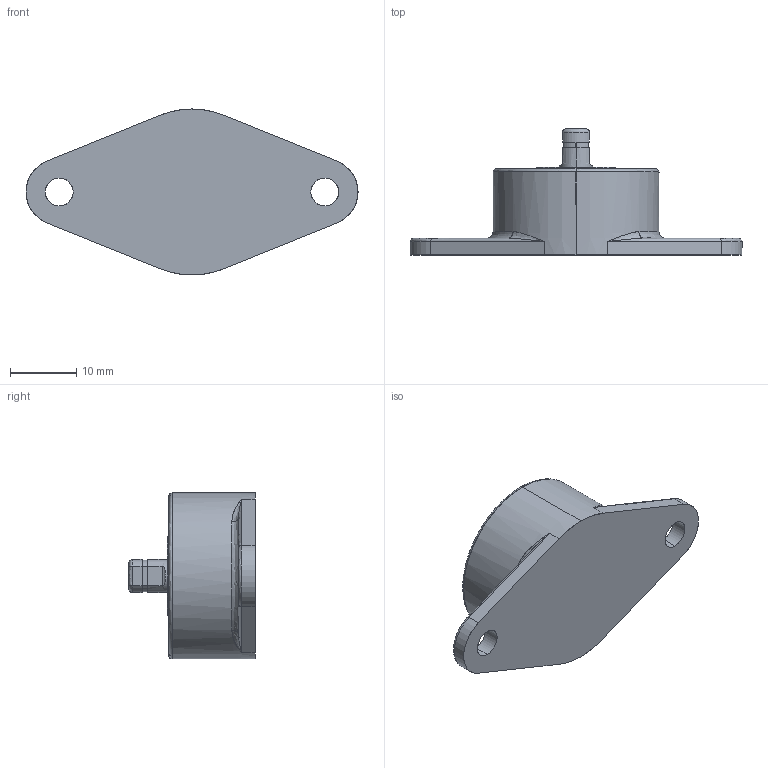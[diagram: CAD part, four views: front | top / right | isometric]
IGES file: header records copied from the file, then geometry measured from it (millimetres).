
Start section: SolidWorks IGES file using analytic representation for surfaces
Global section: file name: Z:\7-3D図面\02.3Dデータ(提出用)\IGS\R\FRT-D3.IGS; native system: SolidWorks 2015; preprocessor: SolidWorks 2015; author: flgijutsu; date: 150708.173810; units: millimetre
Bounding box: 50 x 19 x 25 mm (x, y, z)
Surface area: 2821 mm2 (no closed solid volume)
Topology: 0 solids, 0 shells, 59 faces, 886 edges, 882 vertices
Faces by surface type: bspline 33, revolution 26
